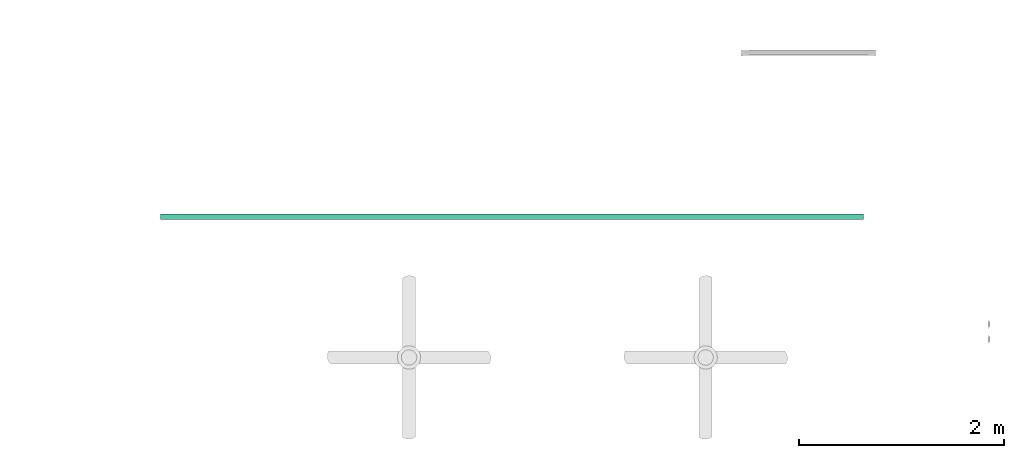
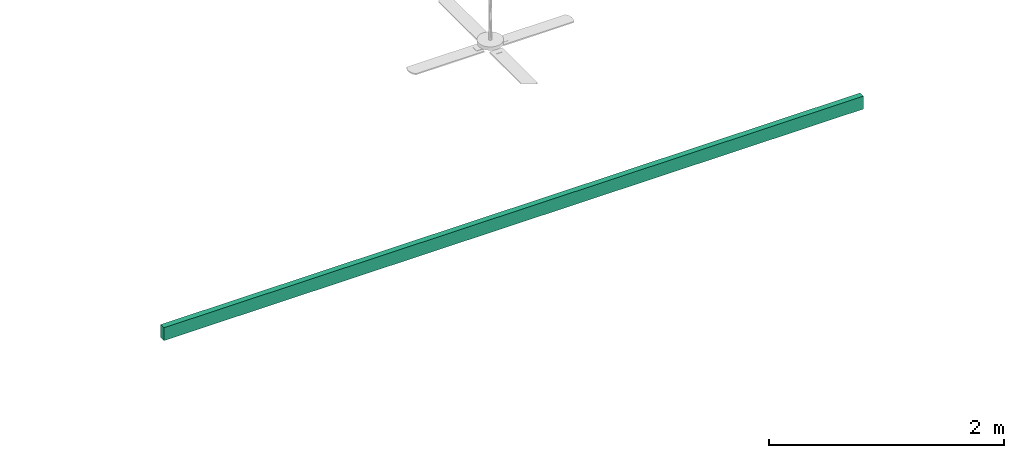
# One storey, part 3 of 9: 1 flow segment.
"""IFC2X3 building model written with IfcOpenShell, lengths in metres."""

from ifc_helpers import new_model, entity, si_unit, converted_unit, derived_unit, direction, frame, origin, origin_2d_with_axis, place, context, subcontext, project, spatial, rectangle, extrude, type_object, element, save


model = new_model("IFC2X3")

# Units and contexts
model_context = context("Model", 3, precision=1e-05, world=origin(), true_north=direction((6.12303176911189e-17, 1.0)))
body_context = subcontext(model_context, "Body", "Model", "MODEL_VIEW")
ifc_project = project(units=[si_unit("LENGTHUNIT", "METRE"), si_unit("AREAUNIT", "SQUARE_METRE"), si_unit("VOLUMEUNIT", "CUBIC_METRE"), converted_unit("PLANEANGLEUNIT", "DEGREE", entity("IfcRatioMeasure", 0.0174532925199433), si_unit("PLANEANGLEUNIT", "RADIAN"), dimensions=[0, 0, 0, 0, 0, 0, 0]), si_unit("MASSUNIT", "GRAM", prefix="KILO"), derived_unit("MASSDENSITYUNIT", [(si_unit("MASSUNIT", "GRAM", prefix="KILO"), 1), (si_unit("LENGTHUNIT", "METRE"), -3)]), si_unit("TIMEUNIT", "SECOND"), si_unit("FREQUENCYUNIT", "HERTZ"), si_unit("THERMODYNAMICTEMPERATUREUNIT", "DEGREE_CELSIUS"), derived_unit("THERMALTRANSMITTANCEUNIT", [(si_unit("MASSUNIT", "GRAM", prefix="KILO"), 1), (si_unit("THERMODYNAMICTEMPERATUREUNIT", "KELVIN"), -1), (si_unit("TIMEUNIT", "SECOND"), -3)]), derived_unit("VOLUMETRICFLOWRATEUNIT", [(si_unit("LENGTHUNIT", "METRE"), 3), (si_unit("TIMEUNIT", "SECOND"), -1)]), si_unit("ELECTRICCURRENTUNIT", "AMPERE"), si_unit("ELECTRICVOLTAGEUNIT", "VOLT"), si_unit("POWERUNIT", "WATT"), si_unit("FORCEUNIT", "NEWTON"), si_unit("ILLUMINANCEUNIT", "LUX"), si_unit("LUMINOUSFLUXUNIT", "LUMEN"), si_unit("LUMINOUSINTENSITYUNIT", "CANDELA"), derived_unit("USERDEFINED", [(si_unit("MASSUNIT", "GRAM", prefix="KILO"), -1), (si_unit("LENGTHUNIT", "METRE"), -2), (si_unit("TIMEUNIT", "SECOND"), 3), (si_unit("LUMINOUSFLUXUNIT", "LUMEN"), 1)]), derived_unit("LINEARVELOCITYUNIT", [(si_unit("LENGTHUNIT", "METRE"), 1), (si_unit("TIMEUNIT", "SECOND"), -1)]), si_unit("PRESSUREUNIT", "PASCAL"), derived_unit("USERDEFINED", [(si_unit("LENGTHUNIT", "METRE"), -2), (si_unit("MASSUNIT", "GRAM", prefix="KILO"), 1), (si_unit("TIMEUNIT", "SECOND"), -2)])], contexts=[model_context])

# Site, building, storey
site_placement = place(None, origin())
site = spatial("IfcSite", under=ifc_project, at=site_placement, Name="Default", CompositionType="ELEMENT")
building_placement = place(site_placement, origin())
building = spatial("IfcBuilding", under=site, at=building_placement, CompositionType="ELEMENT")
storey_placement = place(building_placement, frame((0.0, 0.0, -0.0599999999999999)))
storey = spatial("IfcBuildingStorey", under=building, at=storey_placement, Name="S01", CompositionType="ELEMENT", Elevation=-0.0599999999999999)

# Flow segment
cable_carrier_segment_type = type_object("IfcCableCarrierSegmentType", Name="Cable Tray with Fittings:Goulottes de câbles indéfini_Goulottes de câbles", PredefinedType="NOTDEFINED")
flow_segment_placement = place(storey_placement, origin())
element("IfcFlowSegment", 1, at=flow_segment_placement, inside=storey, type_object=cable_carrier_segment_type, Name="Cable Tray with Fittings:Goulottes de câbles indéfini_Goulottes de câbles", ObjectType="Cable Tray with Fittings:Goulottes de câbles indéfini_Goulottes de câbles", context=body_context, shape_type="SweptSolid", body=[
    extrude(rectangle(XDim=6.873, YDim=0.0559999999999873, at=origin_2d_with_axis()), frame((48.8895062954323, -190.661444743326, 0.3), z_axis=(0.0, 0.0, 1.0), x_axis=(-1.0, 0.0, 0.0)), (0.0, 0.0, 1.0), 0.134),
])

save(model, "model.ifc")
